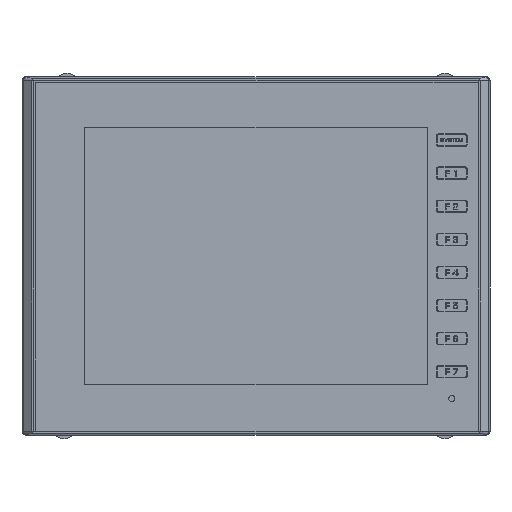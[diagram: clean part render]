
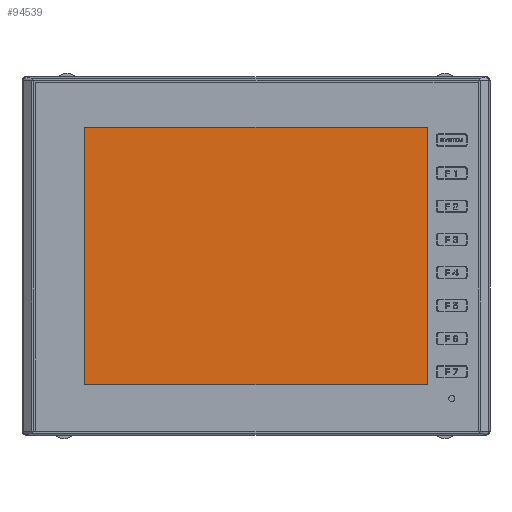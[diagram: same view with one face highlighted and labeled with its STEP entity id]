
A CAD part, top view. The second image highlights one B-rep face of the part: STEP entity #94539.
In plain terms, the highlighted planar face has unit normal (0, 0, 1).
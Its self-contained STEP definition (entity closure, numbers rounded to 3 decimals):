
#31822=DIRECTION('',(0.,-1.,0.));
#31823=VECTOR('',#31822,129.4);
#31824=CARTESIAN_POINT('',(-86.,64.7,5.638));
#31825=LINE('',#31824,#31823);
#31826=DIRECTION('',(-1.,0.,0.));
#31827=VECTOR('',#31826,172.);
#31828=CARTESIAN_POINT('',(86.,64.7,5.638));
#31829=LINE('',#31828,#31827);
#31830=DIRECTION('',(0.,1.,0.));
#31831=VECTOR('',#31830,129.4);
#31832=CARTESIAN_POINT('',(86.,-64.7,5.638));
#31833=LINE('',#31832,#31831);
#31834=DIRECTION('',(1.,0.,0.));
#31835=VECTOR('',#31834,172.);
#31836=CARTESIAN_POINT('',(-86.,-64.7,5.638));
#31837=LINE('',#31836,#31835);
#52071=CARTESIAN_POINT('',(-86.,64.7,5.638));
#52072=CARTESIAN_POINT('',(-86.,-64.7,5.638));
#52073=VERTEX_POINT('',#52071);
#52074=VERTEX_POINT('',#52072);
#52075=CARTESIAN_POINT('',(86.,-64.7,5.638));
#52076=VERTEX_POINT('',#52075);
#52077=CARTESIAN_POINT('',(86.,64.7,5.638));
#52078=VERTEX_POINT('',#52077);
#94528=CARTESIAN_POINT('',(0.,0.,5.638));
#94529=DIRECTION('',(0.,0.,1.));
#94530=DIRECTION('',(1.,0.,0.));
#94531=AXIS2_PLACEMENT_3D('',#94528,#94529,#94530);
#94532=PLANE('',#94531);
#94533=ORIENTED_EDGE('',*,*,#94480,.F.);
#94534=ORIENTED_EDGE('',*,*,#94495,.F.);
#94535=ORIENTED_EDGE('',*,*,#94509,.F.);
#94536=ORIENTED_EDGE('',*,*,#94522,.F.);
#94537=EDGE_LOOP('',(#94533,#94534,#94535,#94536));
#94538=FACE_OUTER_BOUND('',#94537,.F.);
#94539=ADVANCED_FACE('',(#94538),#94532,.T.);
#94480=EDGE_CURVE('',#52073,#52074,#31825,.T.);
#94495=EDGE_CURVE('',#52078,#52073,#31829,.T.);
#94509=EDGE_CURVE('',#52076,#52078,#31833,.T.);
#94522=EDGE_CURVE('',#52074,#52076,#31837,.T.);
